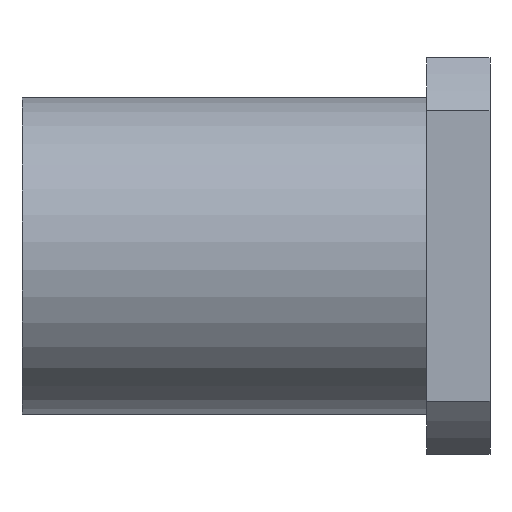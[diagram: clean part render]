
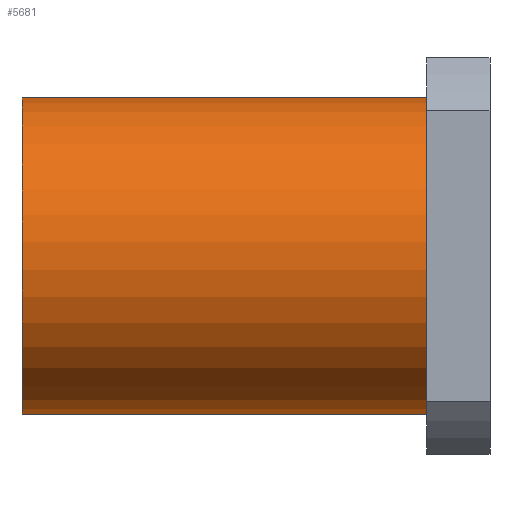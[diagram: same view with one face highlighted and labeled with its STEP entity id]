
A CAD part, front view. The second image highlights one B-rep face of the part: STEP entity #5681.
In plain terms, the highlighted cylindrical face has radius 20 mm (diameter 40 mm), a full revolution.
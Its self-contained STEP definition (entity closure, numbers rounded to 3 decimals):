
#82=CYLINDRICAL_SURFACE('',#6046,20.);
#117=CIRCLE('',#6047,20.);
#118=CIRCLE('',#6048,20.);
#1751=ORIENTED_EDGE('',*,*,#3394,.T.);
#1752=ORIENTED_EDGE('',*,*,#3395,.T.);
#3394=EDGE_CURVE('',#4214,#4214,#117,.T.);
#3395=EDGE_CURVE('',#4215,#4215,#118,.F.);
#4214=VERTEX_POINT('',#9025);
#4215=VERTEX_POINT('',#9027);
#4670=EDGE_LOOP('',(#1751));
#4671=EDGE_LOOP('',(#1752));
#5071=FACE_BOUND('',#4670,.T.);
#5072=FACE_BOUND('',#4671,.T.);
#5681=ADVANCED_FACE('',(#5071,#5072),#82,.T.);
#6046=AXIS2_PLACEMENT_3D('',#9023,#6585,#6586);
#6047=AXIS2_PLACEMENT_3D('',#9024,#6587,#6588);
#6048=AXIS2_PLACEMENT_3D('',#9026,#6589,#6590);
#6585=DIRECTION('',(1.,0.,0.));
#6586=DIRECTION('',(0.,0.707,-0.707));
#6587=DIRECTION('',(1.,0.,0.));
#6588=DIRECTION('',(0.,0.707,-0.707));
#6589=DIRECTION('',(1.,0.,0.));
#6590=DIRECTION('',(0.,0.707,-0.707));
#9023=CARTESIAN_POINT('',(-29.5,0.,0.));
#9024=CARTESIAN_POINT('',(-29.5,0.,0.));
#9025=CARTESIAN_POINT('',(-29.5,14.142,-14.142));
#9026=CARTESIAN_POINT('',(21.5,0.,0.));
#9027=CARTESIAN_POINT('',(21.5,14.142,-14.142));
